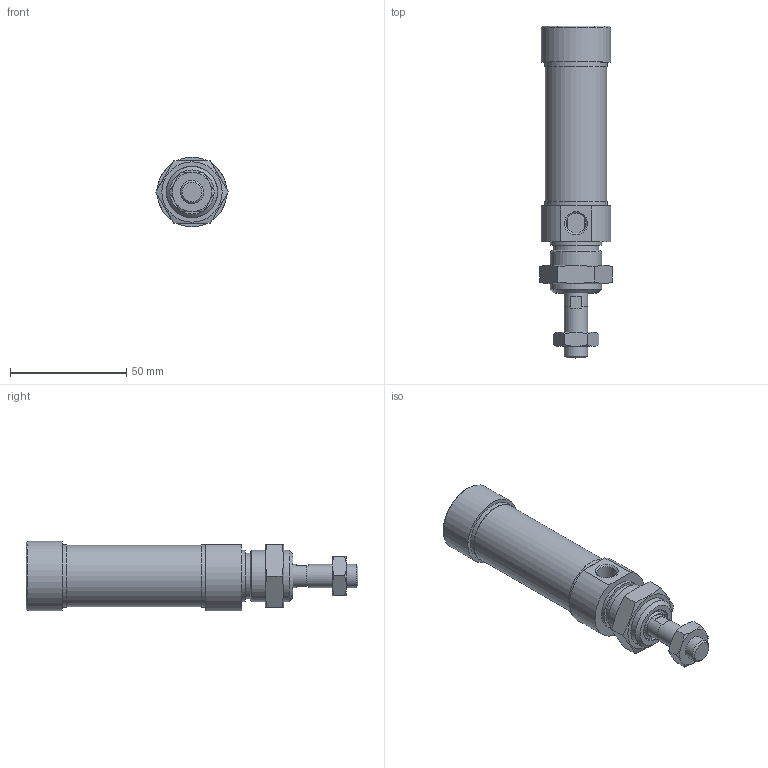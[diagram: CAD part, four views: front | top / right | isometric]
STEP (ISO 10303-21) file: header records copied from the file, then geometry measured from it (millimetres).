
FILE_DESCRIPTION(/* description */ ('Unknown'),/* implementation_level */ '2;1');
FILE_NAME(/* name */ 'RIMA 25_25',/* time_stamp */ '2024-08-30T14:13:56+02:00',/* author */ ('Unknown'),/* organization */ ('Unknown'),/* preprocessor_version */ 'ST-DEVELOPER v16.7',/* originating_system */ 'Solid Edge',/* authorisation */ 'Unknown');
FILE_SCHEMA (('AUTOMOTIVE_DESIGN {1 0 10303 214 3 1 1}'));
Length unit declared in the file: millimetre
Products named in the file (7): RIMA 25_25; Profilrohr; Kolbenstange; Kit_1; Kit_2; Mutter_1; Mutter_2
Assembly tree (6 placements, depth 2):
  RIMA 25_25
    Profilrohr
    Kolbenstange
    Kit_1
    Kit_2
    Mutter_1
    Mutter_2
Bounding box: 31.18 x 143 x 30 mm (x, y, z)
Volume: 60192.2 mm3; surface area: 27997.3 mm2
Topology: 6 solids, 6 shells, 121 faces, 238 edges, 144 vertices
Faces by surface type: plane 47, cone 37, cylinder 30, torus 7
Full cylindrical faces by diameter (mm): 2 x1, 8.56 x1, 8.566 x2, 8.647 x1, 10 x2, 10.5 x1, 11.1 x1, 14 x1, 14.1 x1, 16.1 x1, 16.2 x1, 19.7 x1, 20.376 x1, 22 x2, 22.9 x1, 25 x3, 26.5 x1, 27 x2, 30 x1
Entity records: 3643 total; most frequent: CARTESIAN_POINT 514, DIRECTION 491, ORIENTED_EDGE 342, AXIS2_PLACEMENT_3D 230, EDGE_LOOP 201, FACE_BOUND 201, EDGE_CURVE 171, VERTEX_POINT 134
